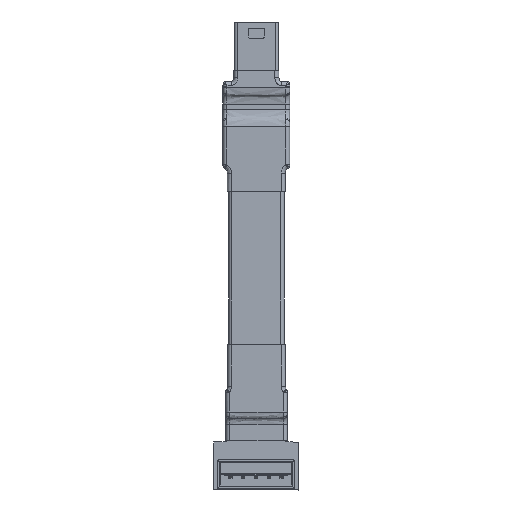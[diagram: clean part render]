
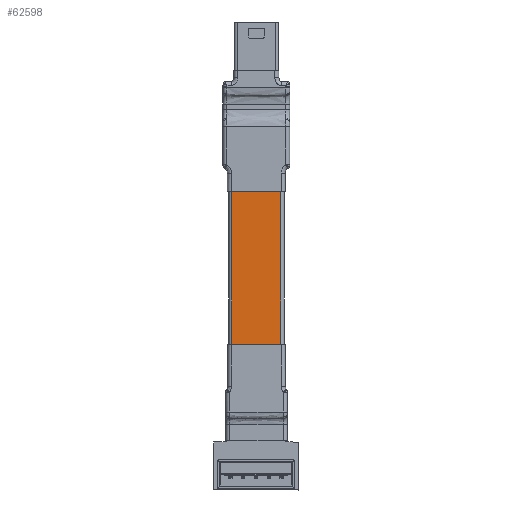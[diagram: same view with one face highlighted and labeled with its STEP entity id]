
A CAD part, top view. The second image highlights one B-rep face of the part: STEP entity #62598.
In plain terms, the highlighted planar face has unit normal (0, 0, 1) as drawn and (0, 1, 0) by its records, which use the part's own axes.
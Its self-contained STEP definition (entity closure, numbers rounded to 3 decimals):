
#62122 = VERTEX_POINT('',#62123);
#62123 = CARTESIAN_POINT('',(-0.001,-0.201,43.));
#62130 = EDGE_CURVE('',#62122,#62131,#62133,.T.);
#62131 = VERTEX_POINT('',#62132);
#62132 = CARTESIAN_POINT('',(-7.621,-0.201,43.));
#62133 = LINE('',#62134,#62135);
#62134 = CARTESIAN_POINT('',(-7.621,-0.201,43.));
#62135 = VECTOR('',#62136,1.);
#62136 = DIRECTION('',(-1.,-0.,-0.));
#62299 = VERTEX_POINT('',#62300);
#62300 = CARTESIAN_POINT('',(-0.001,-0.201,0.));
#62316 = VERTEX_POINT('',#62317);
#62317 = CARTESIAN_POINT('',(-7.621,-0.201,0.));
#62324 = EDGE_CURVE('',#62299,#62316,#62325,.T.);
#62325 = LINE('',#62326,#62327);
#62326 = CARTESIAN_POINT('',(-7.621,-0.201,0.));
#62327 = VECTOR('',#62328,1.);
#62328 = DIRECTION('',(-1.,-0.,-0.));
#62554 = EDGE_CURVE('',#62299,#62122,#62555,.T.);
#62555 = LINE('',#62556,#62557);
#62556 = CARTESIAN_POINT('',(-0.001,-0.201,0.));
#62557 = VECTOR('',#62558,1.);
#62558 = DIRECTION('',(-0.,-0.,1.));
#62586 = EDGE_CURVE('',#62316,#62131,#62587,.T.);
#62587 = LINE('',#62588,#62589);
#62588 = CARTESIAN_POINT('',(-7.621,-0.201,0.));
#62589 = VECTOR('',#62590,1.);
#62590 = DIRECTION('',(-0.,-0.,1.));
#62598 = ADVANCED_FACE('',(#62599),#62605,.T.);
#62599 = FACE_BOUND('',#62600,.T.);
#62600 = EDGE_LOOP('',(#62601,#62602,#62603,#62604));
#62601 = ORIENTED_EDGE('',*,*,#62130,.F.);
#62602 = ORIENTED_EDGE('',*,*,#62554,.F.);
#62603 = ORIENTED_EDGE('',*,*,#62324,.T.);
#62604 = ORIENTED_EDGE('',*,*,#62586,.T.);
#62605 = PLANE('',#62606);
#62606 = AXIS2_PLACEMENT_3D('',#62607,#62608,#62609);
#62607 = CARTESIAN_POINT('',(-7.621,-0.201,0.));
#62608 = DIRECTION('',(-0.,1.,0.));
#62609 = DIRECTION('',(0.,0.,1.));
